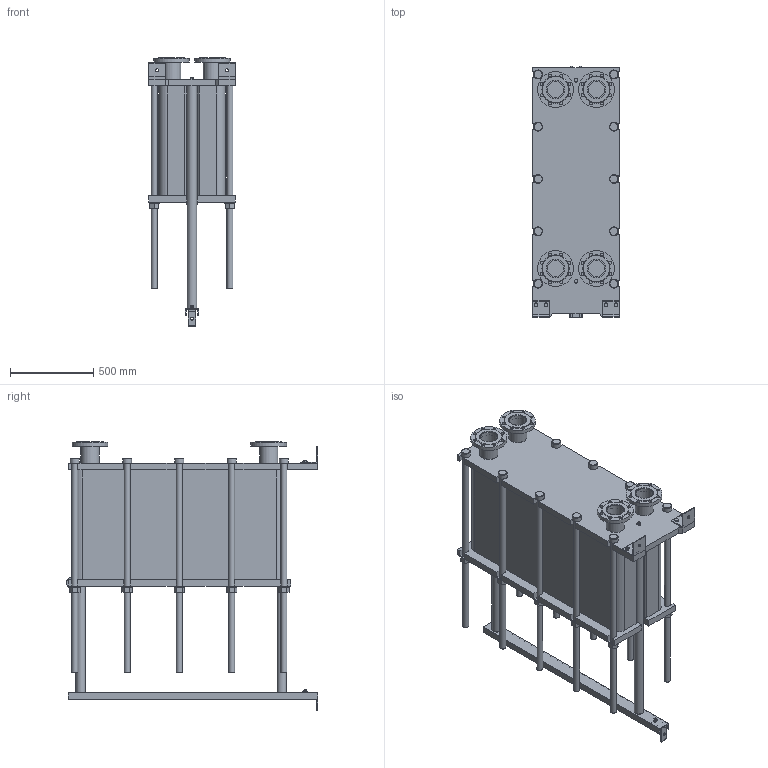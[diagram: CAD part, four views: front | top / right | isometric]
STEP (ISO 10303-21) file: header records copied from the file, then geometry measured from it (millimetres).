
FILE_DESCRIPTION(/* description */ (''),/* implementation_level */ '2;1');
FILE_NAME(/* name */ 'C:\Users\zhuro\Desktop\ENCO\TO\ЭН-04\ЭН-0,5-04-191-1.stp',/* time_stamp */ '2022-06-06T11:01:37+03:00',/* author */ ('zhuro'),/* organization */ (''),/* preprocessor_version */ 'ST-DEVELOPER v18.1',/* originating_system */ 'Autodesk Inventor 2022',/* authorisation */ '');
FILE_SCHEMA (('AUTOMOTIVE_DESIGN { 1 0 10303 214 3 1 1 }'));
Length unit declared in the file: millimetre
Products named in the file (1): ЭН-0,5-04-191-1
Bounding box: 520 x 1510 x 1615.5 mm (x, y, z)
Volume: 405418784.9 mm3; surface area: 10356360.6 mm2
Topology: 45 solids, 45 shells, 668 faces, 1611 edges, 1048 vertices
Faces by surface type: plane 457, cylinder 166, cone 39, torus 6
Full cylindrical faces by diameter (mm): 8 x4, 10 x2, 16 x8, 18 x35, 36 x25, 40 x2, 42 x1, 45 x4, 54 x10, 57 x2, 60 x10, 68 x2, 100 x4, 110 x8, 215 x4
Entity records: 23607 total; most frequent: CARTESIAN_POINT 7348, DIRECTION 3371, ORIENTED_EDGE 3142, EDGE_CURVE 1571, AXIS2_PLACEMENT_3D 1199, VERTEX_POINT 1044, LINE 973, VECTOR 973
